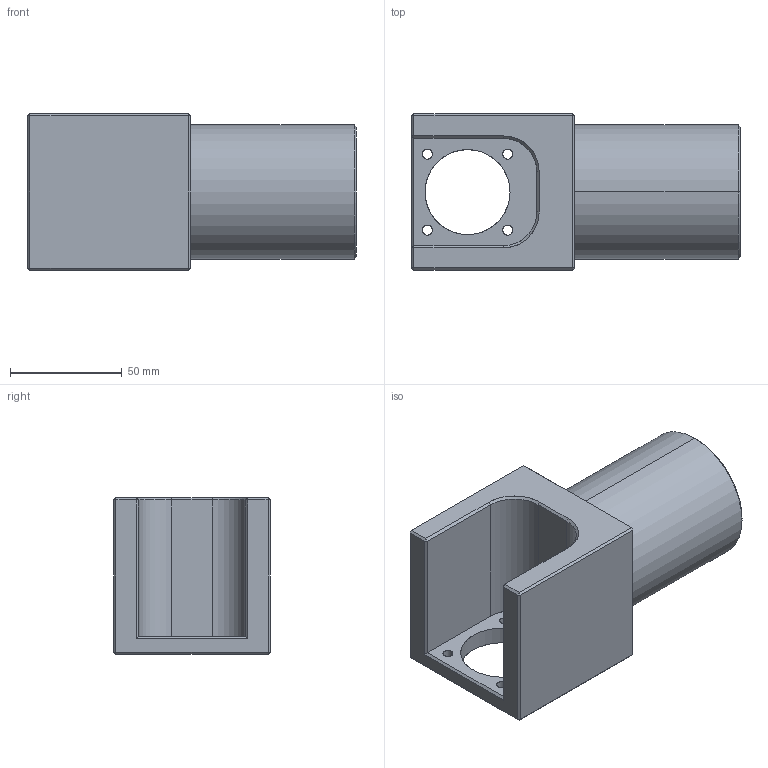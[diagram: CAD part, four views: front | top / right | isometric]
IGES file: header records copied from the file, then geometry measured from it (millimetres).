
Start section: SolidWorks IGES file using analytic representation for surfaces
Global section: file name: R:\Inventor\Kundmodeller Solidworks\Fästen\Swivel bracket LS22 042J000002.IGS; native system: SolidWorks 2008; preprocessor: SolidWorks 2008; author: Johan; date: 091015.081956; units: millimetre
Bounding box: 147 x 70 x 70 mm (x, y, z)
Surface area: 48612.1 mm2 (no closed solid volume)
Topology: 0 solids, 0 shells, 70 faces, 1090 edges, 1090 vertices
Faces by surface type: bspline 44, revolution 26
